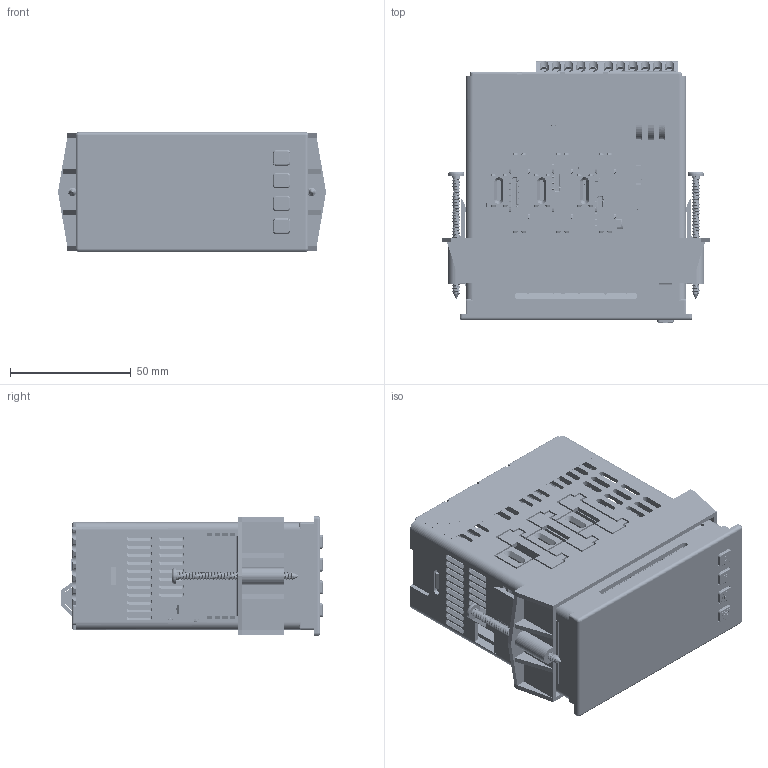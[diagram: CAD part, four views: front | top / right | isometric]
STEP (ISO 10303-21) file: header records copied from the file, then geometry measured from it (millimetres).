
FILE_DESCRIPTION(/* description */ ('Unknown'),/* implementation_level */ '2;1');
FILE_NAME(/* name */ 'PAX2C',/* time_stamp */ '2016-10-27T14:49:45-04:00',/* author */ ('Unknown'),/* organization */ ('Unknown'),/* preprocessor_version */ 'ST-DEVELOPER v16.7',/* originating_system */ 'DEX',/* authorisation */ $);
FILE_SCHEMA (('AUTOMOTIVE_DESIGN {1 0 10303 214 3 1 1}'));
Products named in the file (22): PAX2C Horizontal 78; CA462300; GK004638 modified; M4401-opaque; CV002123; m4400; SCOCDO87 LCD; HWM04630; LABEL LB02238X; M4354-0; LABEL LB05050X; HWMCLP09; Option Card 6 position (Generic)holes wrong; HWSTQP64; CV114917; WRJF0502; CV462801; Label MB2309A; MSLB0025; Label LB04818_; Flex46 formed; CV114624
Assembly tree (25 placements, depth 2):
  PAX2C Horizontal 78
    CA462300
    GK004638 modified
    M4401-opaque
    CV002123
    m4400
    SCOCDO87 LCD
    HWM04630
    LABEL LB02238X
    M4354-0
    LABEL LB05050X
    HWMCLP09
    Option Card 6 position (Generic)holes wrong
    HWSTQP64  x2
    CV114917
    WRJF0502  x4
    CV462801
    Label MB2309A
    MSLB0025
    Label LB04818_
    Flex46 formed
    CV114624
Bounding box: 111.07 x 108.71 x 49.53 mm (x, y, z)
Volume: 142829.7 mm3; surface area: 204746.3 mm2
Topology: 85 solids, 86 shells, 11402 faces, 30714 edges, 20034 vertices
Faces by surface type: plane 9027, cylinder 1958, bspline 260, sphere 85, cone 60, torus 12
Full cylindrical faces by diameter (mm): 0.2 x7, 0.457 x2, 0.5 x30, 0.508 x6, 0.6 x34, 0.65 x3, 0.762 x8, 0.972 x1, 1.016 x4, 1.27 x4, 1.3 x10, 1.372 x6, 1.524 x1, 1.651 x4, 2 x4, 3.175 x1, 3.226 x2, 3.505 x72, 3.8 x8, 3.83 x8, 3.835 x1, 5 x3, 5.004 x4, 5.715 x4, 6 x3, 6.68 x2, 7.239 x4, 8 x2, 8.8 x1, 8.85 x1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
Entity records: 417683 total; most frequent: CARTESIAN_POINT 78909, ORIENTED_EDGE 57874, DIRECTION 54000, EDGE_CURVE 28937, LINE 24146, VECTOR 24146, VERTEX_POINT 18990, AXIS2_PLACEMENT_3D 14927
